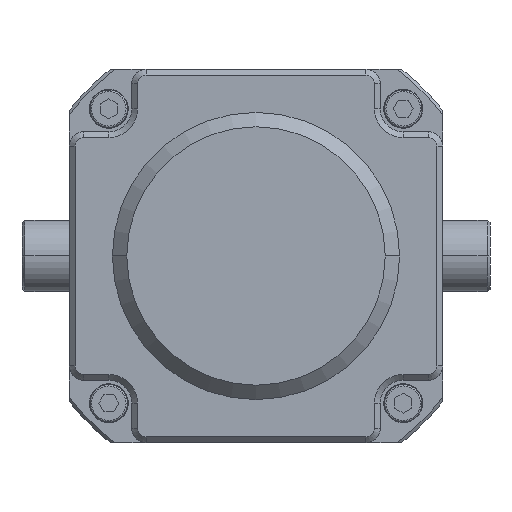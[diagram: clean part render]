
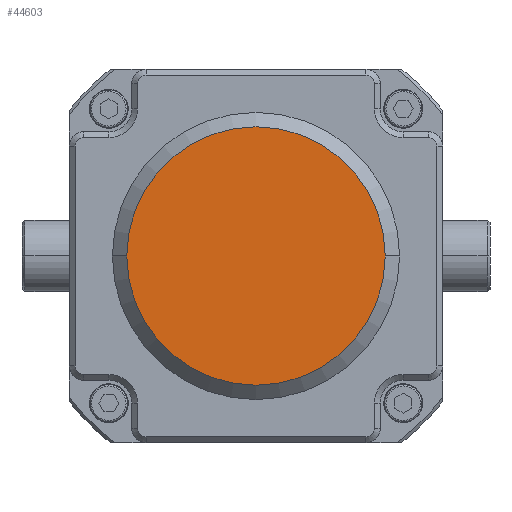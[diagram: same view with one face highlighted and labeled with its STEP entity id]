
A CAD part, front view. The second image highlights one B-rep face of the part: STEP entity #44603.
In plain terms, the highlighted planar face has unit normal (0, -1, 0) as drawn and (0, 1, 0) by its records, which use the part's own axes.
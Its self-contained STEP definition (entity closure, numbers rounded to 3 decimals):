
#42524=CARTESIAN_POINT('',(0.,166.,0.));
#42525=DIRECTION('',(0.,1.,0.));
#42526=DIRECTION('',(-1.,0.,0.));
#42527=AXIS2_PLACEMENT_3D('',#42524,#42525,#42526);
#42529=CARTESIAN_POINT('',(0.,166.,0.));
#42530=DIRECTION('',(0.,1.,0.));
#42531=DIRECTION('',(1.,0.,0.));
#42532=AXIS2_PLACEMENT_3D('',#42529,#42530,#42531);
#43149=CARTESIAN_POINT('',(-45.,166.,0.));
#43150=CARTESIAN_POINT('',(45.,166.,0.));
#43151=VERTEX_POINT('',#43149);
#43152=VERTEX_POINT('',#43150);
#44593=CARTESIAN_POINT('',(0.,166.,0.));
#44594=DIRECTION('',(0.,1.,0.));
#44595=DIRECTION('',(1.,0.,0.));
#44596=AXIS2_PLACEMENT_3D('',#44593,#44594,#44595);
#44597=PLANE('',#44596);
#44599=ORIENTED_EDGE('',*,*,#44598,.F.);
#44600=ORIENTED_EDGE('',*,*,#44583,.F.);
#44601=EDGE_LOOP('',(#44599,#44600));
#44602=FACE_OUTER_BOUND('',#44601,.F.);
#44603=ADVANCED_FACE('',(#44602),#44597,.T.);
#42528=CIRCLE('',#42527,45.);
#42533=CIRCLE('',#42532,45.);
#44583=EDGE_CURVE('',#43152,#43151,#42533,.T.);
#44598=EDGE_CURVE('',#43151,#43152,#42528,.T.);
